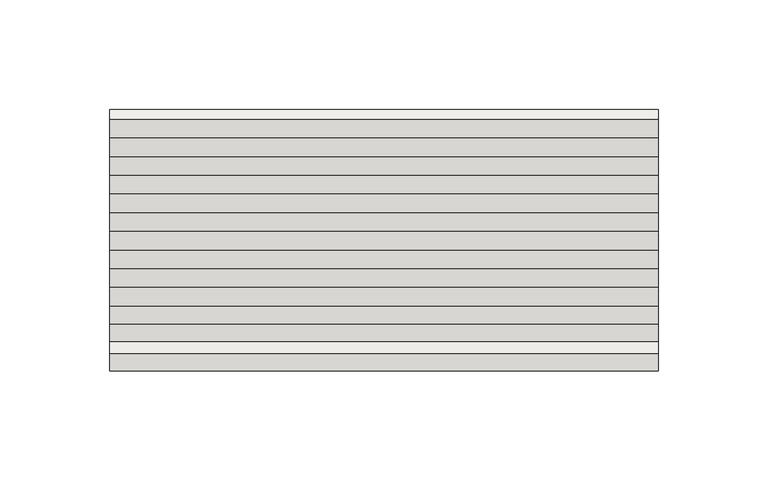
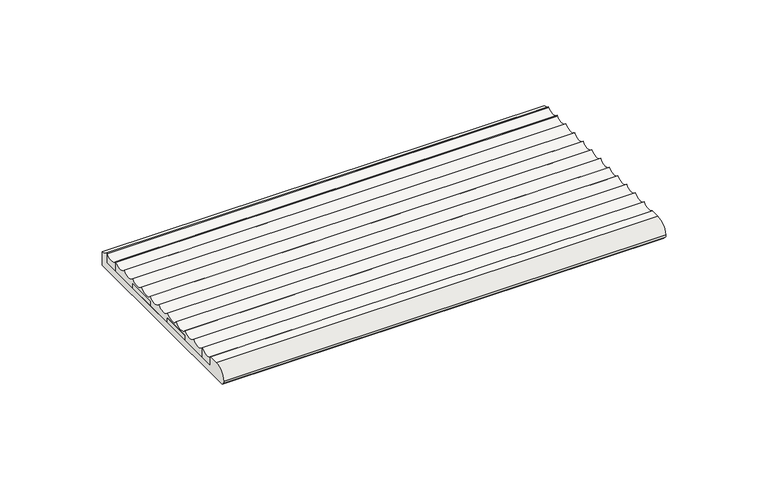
"""IFC4 building model written with IfcOpenShell, lengths in millimetres: slab geometry, ROSA GRES_003 : Pieza 003_Aqua_Marino_Anti-Slip."""

import ifcopenshell
import ifcopenshell.guid

model = None  # the IFC model being written
_history = None  # IfcOwnerHistory: only IFC2X3 demands one
_inside = {}  # id of a spatial element -> (the spatial element, [elements in it])
_under = {}  # id of a project, library or spatial element -> (it, [spatial elements below it])
_declared = {}  # id of a project -> (the project, [libraries it declares])
_typed = {}  # id of a type object -> (the type object, [elements of that type])
_made_of = {}  # id of a material, layer set ... -> (it, [elements and type objects made of it])


def new_model(schema):
    """Start an empty IFC model of exactly this schema.

    Asked for "IFC4X3", IfcOpenShell would pick the latest addendum, in which some entities
    have other attributes; the version numbers below select the first issue.
    IFC2X3 requires an IfcOwnerHistory on every rooted entity: one is made here for all.
    """
    global model, _history
    if schema == "IFC4X3":
        model = ifcopenshell.file(schema_version=(4, 3, 0, 0))
    else:
        model = ifcopenshell.file(schema=schema)
    _inside.clear()
    _under.clear()
    _declared.clear()
    _typed.clear()
    _made_of.clear()
    _history = None
    if model.schema == "IFC2X3":
        org = make("IfcOrganization", Name="unknown")
        user = make(
            "IfcPersonAndOrganization",
            ThePerson=make("IfcPerson", FamilyName="unknown"),
            TheOrganization=org,
        )
        app = make(
            "IfcApplication",
            ApplicationDeveloper=org,
            Version="unknown",
            ApplicationFullName="unknown",
            ApplicationIdentifier="unknown",
        )
        _history = make(
            "IfcOwnerHistory",
            OwningUser=user,
            OwningApplication=app,
            ChangeAction="ADDED",
            CreationDate=0,
        )
    return model


def make(cls, **values):
    """One entity of the class cls with the attributes given. An attribute that is None is left unset."""
    return model.create_entity(
        cls, **{name: value for name, value in values.items() if value is not None}
    )


def rooted(cls, **values):
    """An entity with a GlobalId (a new one), such as an element, a storey or a relation."""
    return make(cls, GlobalId=ifcopenshell.guid.new(), OwnerHistory=_history, **values)


def si_unit(unit_type, name, prefix=None):
    """IfcSIUnit, for example si_unit("LENGTHUNIT", "METRE", prefix="MILLI")."""
    return make("IfcSIUnit", UnitType=unit_type, Prefix=prefix, Name=name)


def assignment(units):
    """IfcUnitAssignment: the units of a project."""
    return None if units is None else make("IfcUnitAssignment", Units=units)


def point(xyz):
    """IfcCartesianPoint."""
    return None if xyz is None else make("IfcCartesianPoint", Coordinates=xyz)


def direction(xyz):
    """IfcDirection."""
    return None if xyz is None else make("IfcDirection", DirectionRatios=xyz)


def frame(location, z_axis=None, x_axis=None):
    """IfcAxis2Placement3D, a coordinate frame: its origin and axes. An axis left out is left unset."""
    return make(
        "IfcAxis2Placement3D",
        Location=point(location),
        Axis=direction(z_axis),
        RefDirection=direction(x_axis),
    )


def frame_2d(location, x_axis=None):
    """IfcAxis2Placement2D, a coordinate frame in the plane: its origin and x axis."""
    return make(
        "IfcAxis2Placement2D", Location=point(location), RefDirection=direction(x_axis)
    )


def origin():
    """The frame at (0, 0, 0) with its axes left unset."""
    return frame((0.0, 0.0, 0.0))


def place(relative_to, where):
    """IfcLocalPlacement: puts the frame where relative to a parent placement (None: the world)."""
    return make(
        "IfcLocalPlacement", PlacementRelTo=relative_to, RelativePlacement=where
    )


def context(
    kind, dimensions, precision=None, world=None, true_north=None, identifier=None
):
    """IfcGeometricRepresentationContext, for example the 3D "Model" context."""
    return make(
        "IfcGeometricRepresentationContext",
        ContextIdentifier=identifier,
        ContextType=kind,
        CoordinateSpaceDimension=dimensions,
        Precision=precision,
        WorldCoordinateSystem=world,
        TrueNorth=true_north,
    )


def project(units=None, contexts=None):
    """IfcProject with its units and contexts."""
    return rooted(
        "IfcProject",
        Name="project",
        RepresentationContexts=contexts,
        UnitsInContext=assignment(units),
    )


def spatial(cls, under=None, at=None, **own):
    """A site, building, storey or space (cls), placed at a placement, below another one or the project."""
    s = rooted(cls, ObjectPlacement=at, **own)
    if under is not None:
        _under.setdefault(under.id(), (under, []))[1].append(s)
    return s


def polyline(points):
    """IfcPolyline through the points."""
    return make("IfcPolyline", Points=[point(p) for p in points])


def circle_curve(where, radius):
    """IfcCircle in the frame where."""
    return make("IfcCircle", Position=where, Radius=radius)


def trimmed(basis, trim1, trim2, sense, master):
    """IfcTrimmedCurve: the piece of a basis curve between two trims."""
    return make(
        "IfcTrimmedCurve",
        BasisCurve=basis,
        Trim1=trim1,
        Trim2=trim2,
        SenseAgreement=sense,
        MasterRepresentation=master,
    )


def segment(curve, same_sense, transition):
    """IfcCompositeCurveSegment."""
    return make(
        "IfcCompositeCurveSegment",
        Transition=transition,
        SameSense=same_sense,
        ParentCurve=curve,
    )


def composite_curve(segments, self_intersect=None):
    """IfcCompositeCurve: segments joined end to end."""
    return make("IfcCompositeCurve", Segments=segments, SelfIntersect=self_intersect)


def outline(outer, holes=None, kind="AREA"):
    """IfcArbitraryClosedProfileDef: a profile drawn as a closed curve; with holes, ...WithVoids."""
    if holes is None:
        return make("IfcArbitraryClosedProfileDef", ProfileType=kind, OuterCurve=outer)
    return make(
        "IfcArbitraryProfileDefWithVoids",
        ProfileType=kind,
        OuterCurve=outer,
        InnerCurves=holes,
    )


def extrude(swept, where, along, depth):
    """IfcExtrudedAreaSolid: the profile swept, set in the frame where, extruded along a direction by depth."""
    return make(
        "IfcExtrudedAreaSolid",
        SweptArea=swept,
        Position=where,
        ExtrudedDirection=direction(along),
        Depth=depth,
    )


def shape(context_of_items, identifier, shape_type, items):
    """IfcShapeRepresentation: the items that make up one representation, for example the "Body"."""
    return make(
        "IfcShapeRepresentation",
        ContextOfItems=context_of_items,
        RepresentationIdentifier=identifier,
        RepresentationType=shape_type,
        Items=items,
    )


def source(mapping_origin, context_of_items, identifier, shape_type, items):
    """IfcRepresentationMap: a shape defined once, which mapped items show again and again."""
    return make(
        "IfcRepresentationMap",
        MappingOrigin=mapping_origin,
        MappedRepresentation=shape(context_of_items, identifier, shape_type, items),
    )


def transform(
    local_origin,
    x_axis=None,
    y_axis=None,
    z_axis=None,
    scale=None,
    scale2=None,
    scale3=None,
    uniform=True,
):
    """IfcCartesianTransformationOperator3D, or its non-uniform kind. x_axis, y_axis, z_axis: its Axis1, 2, 3."""
    if uniform:
        return make(
            "IfcCartesianTransformationOperator3D",
            Axis1=direction(x_axis),
            Axis2=direction(y_axis),
            LocalOrigin=point(local_origin),
            Scale=scale,
            Axis3=direction(z_axis),
        )
    return make(
        "IfcCartesianTransformationOperator3DnonUniform",
        Axis1=direction(x_axis),
        Axis2=direction(y_axis),
        LocalOrigin=point(local_origin),
        Scale=scale,
        Axis3=direction(z_axis),
        Scale2=scale2,
        Scale3=scale3,
    )


def mapped(mapping_source, mapping_target):
    """IfcMappedItem: shows the shape of a source again, moved by a transform."""
    return make(
        "IfcMappedItem", MappingSource=mapping_source, MappingTarget=mapping_target
    )


def made_of(thing, what):
    """Note that an element or type object is made of a material, layer set ...; save() writes the relation."""
    if what is not None:
        _made_of.setdefault(what.id(), (what, []))[1].append(thing)
    return thing


def element(
    cls,
    number,
    at=None,
    inside=None,
    cuts=None,
    type_object=None,
    material=None,
    context=None,
    identifier="Body",
    shape_type=None,
    held_by="IfcProductDefinitionShape",
    body=None,
    shapes=None,
    **own,
):
    """One element of the class cls, such as IfcWall. Its Tag is "e" and its number.

    at: its placement. inside: the storey or other place that contains it. cuts: it is an
    opening in that element (IfcRelVoidsElement). A single representation is given by context,
    identifier, shape_type and body (its items); several are given by shapes. held_by: the class
    of the entity that holds the representations. save() writes the other relations.
    """
    e = rooted(cls, Tag="e%d" % number, ObjectPlacement=at, **own)
    if body is not None:
        shapes = [shape(context, identifier, shape_type, body)]
    if shapes is not None:
        e.Representation = make(held_by, Representations=shapes)
    if inside is not None:
        _inside.setdefault(inside.id(), (inside, []))[1].append(e)
    if cuts is not None:
        rooted(
            "IfcRelVoidsElement", RelatingBuildingElement=cuts, RelatedOpeningElement=e
        )
    if type_object is not None:
        _typed.setdefault(type_object.id(), (type_object, []))[1].append(e)
    return made_of(e, material)


def aggregate(whole, parts):
    """IfcRelAggregates: a whole, such as a stair, and the parts it consists of."""
    return rooted("IfcRelAggregates", RelatingObject=whole, RelatedObjects=parts)


def save(model, path):
    """Write the relations noted so far, then the file.

    IfcRelAggregates (storeys below a building ...), IfcRelContainedInSpatialStructure (elements
    in a storey), IfcRelDefinesByType, IfcRelAssociatesMaterial and IfcRelDeclares: one each for
    every whole, place, type object, material and project.
    """
    for whole, parts in _under.values():
        aggregate(whole, parts)
    for where, things in _inside.values():
        rooted(
            "IfcRelContainedInSpatialStructure",
            RelatedElements=things,
            RelatingStructure=where,
        )
    for kind, things in _typed.values():
        rooted("IfcRelDefinesByType", RelatedObjects=things, RelatingType=kind)
    for what, things in _made_of.values():
        rooted("IfcRelAssociatesMaterial", RelatedObjects=things, RelatingMaterial=what)
    for by, libraries in _declared.values():
        rooted("IfcRelDeclares", RelatingContext=by, RelatedDefinitions=libraries)
    model.write(path)


def slab_ea4350df(model_context):
    return source(origin(), model_context, "Body", "SweptSolid", [
        extrude(outline(composite_curve([segment(polyline([(7.6419163, 9.4971975), (13.1748183, 9.4971975), (13.1748183, 4.0921512), (114.6668888, 4.0921512), (114.6668888, 10.0184612)]), True, "CONTINUOUS"), segment(trimmed(circle_curve(frame_2d((118.9168888, 13.6516438)), 5.5912893), [point((114.6668888, 10.0184612))], [point((118.9168888, 8.0603545))], True, "CARTESIAN"), True, "CONTINUOUS"), segment(polyline([(118.9168888, 8.0603545), (118.9168888, 0.0), (1.8518481, 0.0), (0.5422562, 1.309592)]), True, "CONTINUOUS"), segment(trimmed(circle_curve(frame_2d((1.9104791, 2.6778148)), 1.9349594), [point((0.5422562, 1.309592))], [point((0.0, 2.9846331))], False, "CARTESIAN"), True, "CONTINUOUS"), segment(trimmed(circle_curve(frame_2d((7.6419163, 1.7573601)), 7.7398374), [point((0.0, 2.9846331))], [point((7.6419163, 9.4971975))], False, "CARTESIAN"), True, "CONTINUOUS")], self_intersect=False)), frame((0.0, 0.0, 0.0), z_axis=(1.0, 0.0, 0.0), x_axis=(0.0, 1.0, 0.0)), (0.0, 0.0, 1.0), 249.3975058),
        extrude(outline(composite_curve([segment(trimmed(circle_curve(frame_2d((110.4168888, 13.6516438)), 5.5912893), [point((106.1668888, 10.0184612))], [point((114.6668888, 10.0184612))], True, "CARTESIAN"), True, "CONTINUOUS"), segment(polyline([(114.6668888, 10.0184612), (114.6668888, 4.0921512), (106.1668888, 4.0921512), (106.1668888, 10.0184612)]), True, "CONTINUOUS")], self_intersect=False)), frame((0.0, 0.0, 0.0), z_axis=(1.0, 0.0, 0.0), x_axis=(0.0, 1.0, 0.0)), (0.0, 0.0, 1.0), 249.3975058),
        extrude(outline(polyline([(249.3975058, 89.1668888), (249.3975058, 72.1668888), (0.0, 72.1668888), (0.0, 89.1668888), (249.3975058, 89.1668888)])), frame((0.0, 0.0, 4.0921512), z_axis=(0.0, 0.0, 1.0), x_axis=(1.0, 0.0, 0.0)), (0.0, 0.0, 1.0), 2.92631),
        extrude(outline(polyline([(249.3975058, 55.1668888), (249.3975058, 38.1668888), (0.0, 38.1668888), (0.0, 55.1668888), (249.3975058, 55.1668888)])), frame((0.0, 0.0, 4.0921512), z_axis=(0.0, 0.0, 1.0), x_axis=(1.0, 0.0, 0.0)), (0.0, 0.0, 1.0), 2.92631),
        extrude(outline(composite_curve([segment(trimmed(circle_curve(frame_2d((16.9168888, 13.6516438)), 5.5912893), [point((13.1748183, 9.4971975))], [point((21.1668888, 10.0184612))], True, "CARTESIAN"), True, "CONTINUOUS"), segment(polyline([(21.1668888, 10.0184612), (21.1668888, 4.0921512), (13.1748183, 4.0921512), (13.1748183, 9.4971975)]), True, "CONTINUOUS")], self_intersect=False)), frame((0.0, 0.0, 0.0), z_axis=(1.0, 0.0, 0.0), x_axis=(0.0, 1.0, 0.0)), (0.0, 0.0, 1.0), 249.3975058),
        extrude(outline(composite_curve([segment(trimmed(circle_curve(frame_2d((25.4168888, 13.6553338)), 5.5912893), [point((21.1668888, 10.0221512))], [point((29.6668888, 10.0221512))], True, "CARTESIAN"), True, "CONTINUOUS"), segment(trimmed(circle_curve(frame_2d((33.9168888, 13.6553338)), 5.5912893), [point((29.6668888, 10.0221512))], [point((38.1668888, 10.0221512))], True, "CARTESIAN"), True, "CONTINUOUS"), segment(trimmed(circle_curve(frame_2d((42.4168888, 13.6553338)), 5.5912893), [point((38.1668888, 10.0221512))], [point((46.6668888, 10.0221512))], True, "CARTESIAN"), True, "CONTINUOUS"), segment(trimmed(circle_curve(frame_2d((50.9168888, 13.6553338)), 5.5912893), [point((46.6668888, 10.0221512))], [point((55.1668888, 10.0221512))], True, "CARTESIAN"), True, "CONTINUOUS"), segment(trimmed(circle_curve(frame_2d((59.4168888, 13.6553338)), 5.5912893), [point((55.1668888, 10.0221512))], [point((63.6668888, 10.0221512))], True, "CARTESIAN"), True, "CONTINUOUS"), segment(trimmed(circle_curve(frame_2d((67.9168888, 13.6553338)), 5.5912893), [point((63.6668888, 10.0221512))], [point((72.1668888, 10.0221512))], True, "CARTESIAN"), True, "CONTINUOUS"), segment(trimmed(circle_curve(frame_2d((76.4168888, 13.6553338)), 5.5912893), [point((72.1668888, 10.0221512))], [point((80.6668888, 10.0221512))], True, "CARTESIAN"), True, "CONTINUOUS"), segment(trimmed(circle_curve(frame_2d((84.9168888, 13.6553338)), 5.5912893), [point((80.6668888, 10.0221512))], [point((89.1668888, 10.0221512))], True, "CARTESIAN"), True, "CONTINUOUS"), segment(trimmed(circle_curve(frame_2d((93.4168888, 13.6553338)), 5.5912893), [point((89.1668888, 10.0221512))], [point((97.6668888, 10.0221512))], True, "CARTESIAN"), True, "CONTINUOUS"), segment(trimmed(circle_curve(frame_2d((101.9168888, 13.6553338)), 5.5912893), [point((97.6668888, 10.0221512))], [point((106.1668888, 10.0221512))], True, "CARTESIAN"), True, "CONTINUOUS"), segment(polyline([(106.1668888, 10.0221512), (106.1668888, 4.0921512), (89.1668888, 4.0921512), (89.1668888, 7.0184612), (72.1668888, 7.0184612), (72.1668888, 4.0921512), (55.1668888, 4.0921512), (55.1668888, 7.0184612), (38.1668888, 7.0184612), (38.1668888, 4.0921512), (21.1668888, 4.0921512), (21.1668888, 10.0221512)]), True, "CONTINUOUS")], self_intersect=False)), frame((0.0, 0.0, 0.0), z_axis=(1.0, 0.0, 0.0), x_axis=(0.0, 1.0, 0.0)), (0.0, 0.0, 1.0), 249.3975058),
    ])


if __name__ == "__main__":
    model = new_model("IFC4")
    model_context = context("Model", 3, world=origin())
    ifc_project = project(units=[si_unit("LENGTHUNIT", "METRE", prefix="MILLI")], contexts=[model_context])
    site = spatial("IfcSite", under=ifc_project)
    building = spatial("IfcBuilding", under=site)
    placement = place(None, origin())
    slab_shape = slab_ea4350df(model_context)
    element("IfcSlab", 1, ObjectType="ROSA GRES_003 : Pieza 003_Aqua_Marino_Anti-Slip", at=placement, inside=building, context=model_context, shape_type="MappedRepresentation", body=[
        mapped(slab_shape, transform((0.0, 0.0, 0.0), x_axis=(1.0, 0.0, 0.0), y_axis=(0.0, 1.0, 0.0), z_axis=(0.0, 0.0, 1.0))),
    ])
    save(model, "model.ifc")
